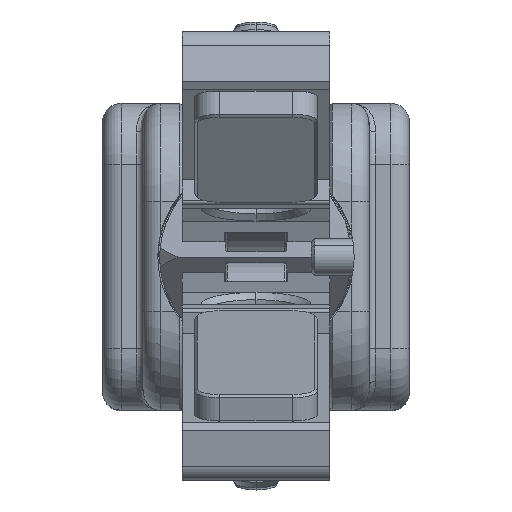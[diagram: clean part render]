
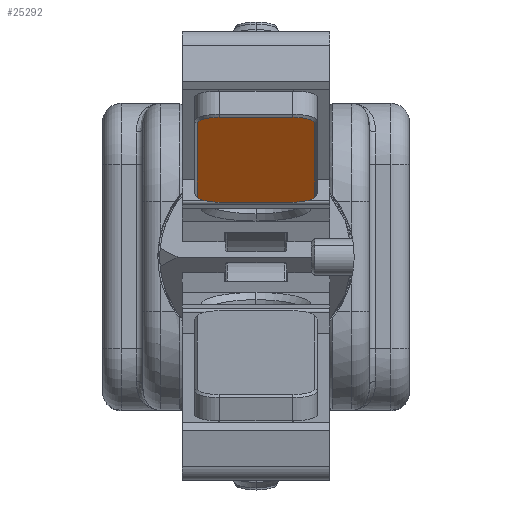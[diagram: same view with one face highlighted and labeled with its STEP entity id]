
A CAD part, top view. The second image highlights one B-rep face of the part: STEP entity #25292.
In plain terms, the highlighted planar face has unit normal (0, -0.963, 0.269).
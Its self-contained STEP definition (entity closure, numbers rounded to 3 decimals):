
#104 = AXIS2_PLACEMENT_3D ( 'NONE', #5534, #24479, #8289 ) ;
#435 = CARTESIAN_POINT ( 'NONE',  ( 2.858, 6.203, 128.681 ) ) ;
#598 = DIRECTION ( 'NONE',  ( 0., 0.268, 0.963 ) ) ;
#1003 = CARTESIAN_POINT ( 'NONE',  ( -4.942, 6.203, 128.681 ) ) ;
#1064 = CARTESIAN_POINT ( 'NONE',  ( -3.142, 5.72, 126.947 ) ) ;
#1135 = DIRECTION ( 'NONE',  ( 0., -0.963, 0.268 ) ) ;
#1240 = EDGE_CURVE ( 'NONE', #11209, #28828, #6441, .T. ) ;
#1839 = AXIS2_PLACEMENT_3D ( 'NONE', #33108, #16860, #598 ) ;
#2467 = CARTESIAN_POINT ( 'NONE',  ( 2.858, 5.72, 126.947 ) ) ;
#2791 = CARTESIAN_POINT ( 'NONE',  ( -3.142, 12.592, 151.607 ) ) ;
#3175 = DIRECTION ( 'NONE',  ( 0., 0.268, 0.963 ) ) ;
#3751 = LINE ( 'NONE', #26575, #24541 ) ;
#3977 = VERTEX_POINT ( 'NONE', #2791 ) ;
#4055 = EDGE_CURVE ( 'NONE', #19656, #22913, #18947, .T. ) ;
#4311 = ORIENTED_EDGE ( 'NONE', *, *, #14545, .T. ) ;
#5044 = CARTESIAN_POINT ( 'NONE',  ( -4.942, 6.203, 128.681 ) ) ;
#5110 = FACE_OUTER_BOUND ( 'NONE', #19575, .T. ) ;
#5534 = CARTESIAN_POINT ( 'NONE',  ( 2.858, 12.109, 149.873 ) ) ;
#6280 = CARTESIAN_POINT ( 'NONE',  ( -0.142, 5.72, 126.947 ) ) ;
#6441 = CIRCLE ( 'NONE', #104, 1.8 ) ;
#6628 = CARTESIAN_POINT ( 'NONE',  ( -4.942, 12.109, 149.873 ) ) ;
#6752 = AXIS2_PLACEMENT_3D ( 'NONE', #26189, #9967, #28951 ) ;
#7800 = DIRECTION ( 'NONE',  ( 0., -0.268, -0.963 ) ) ;
#7912 = EDGE_CURVE ( 'NONE', #3977, #11873, #27872, .T. ) ;
#7955 = ORIENTED_EDGE ( 'NONE', *, *, #1240, .T. ) ;
#8226 = ORIENTED_EDGE ( 'NONE', *, *, #23996, .T. ) ;
#8289 = DIRECTION ( 'NONE',  ( 0., 0.268, 0.963 ) ) ;
#9335 = EDGE_CURVE ( 'NONE', #17674, #28899, #33583, .T. ) ;
#9967 = DIRECTION ( 'NONE',  ( 0., -0.963, 0.268 ) ) ;
#10066 = CARTESIAN_POINT ( 'NONE',  ( -3.142, 12.592, 151.607 ) ) ;
#10337 = DIRECTION ( 'NONE',  ( 0., 0.268, 0.963 ) ) ;
#10398 = VECTOR ( 'NONE', #12816, 1000. ) ;
#10520 = AXIS2_PLACEMENT_3D ( 'NONE', #17397, #1135, #20126 ) ;
#11209 = VERTEX_POINT ( 'NONE', #19667 ) ;
#11769 = DIRECTION ( 'NONE',  ( 1., 0., 0. ) ) ;
#11873 = VERTEX_POINT ( 'NONE', #6628 ) ;
#12083 = AXIS2_PLACEMENT_3D ( 'NONE', #435, #19428, #3175 ) ;
#12816 = DIRECTION ( 'NONE',  ( -1., 0., 0. ) ) ;
#14285 = EDGE_CURVE ( 'NONE', #28899, #11209, #3751, .T. ) ;
#14545 = EDGE_CURVE ( 'NONE', #22913, #17674, #33822, .T. ) ;
#16540 = EDGE_CURVE ( 'NONE', #11873, #19656, #34793, .T. ) ;
#16860 = DIRECTION ( 'NONE',  ( 0., -0.963, 0.268 ) ) ;
#17397 = CARTESIAN_POINT ( 'NONE',  ( -3.142, 6.203, 128.681 ) ) ;
#17674 = VERTEX_POINT ( 'NONE', #2467 ) ;
#18947 = CIRCLE ( 'NONE', #10520, 1.8 ) ;
#19428 = DIRECTION ( 'NONE',  ( 0., -0.963, 0.268 ) ) ;
#19575 = EDGE_LOOP ( 'NONE', ( #33759, #7955, #8226, #35134, #27204, #28722, #4311, #29495 ) ) ;
#19656 = VERTEX_POINT ( 'NONE', #1003 ) ;
#19667 = CARTESIAN_POINT ( 'NONE',  ( 4.658, 12.109, 149.873 ) ) ;
#20126 = DIRECTION ( 'NONE',  ( 0., 0.268, 0.963 ) ) ;
#22171 = PLANE ( 'NONE',  #1839 ) ;
#22913 = VERTEX_POINT ( 'NONE', #1064 ) ;
#23996 = EDGE_CURVE ( 'NONE', #28828, #3977, #32060, .T. ) ;
#24479 = DIRECTION ( 'NONE',  ( 0., -0.963, 0.268 ) ) ;
#24541 = VECTOR ( 'NONE', #10337, 1000. ) ;
#25292 = ADVANCED_FACE ( 'NONE', ( #5110 ), #22171, .T. ) ;
#26189 = CARTESIAN_POINT ( 'NONE',  ( -3.142, 12.109, 149.873 ) ) ;
#26575 = CARTESIAN_POINT ( 'NONE',  ( 4.658, 9.156, 139.277 ) ) ;
#27204 = ORIENTED_EDGE ( 'NONE', *, *, #16540, .T. ) ;
#27872 = CIRCLE ( 'NONE', #6752, 1.8 ) ;
#28722 = ORIENTED_EDGE ( 'NONE', *, *, #4055, .T. ) ;
#28828 = VERTEX_POINT ( 'NONE', #34974 ) ;
#28899 = VERTEX_POINT ( 'NONE', #35205 ) ;
#28951 = DIRECTION ( 'NONE',  ( 0., 0.268, 0.963 ) ) ;
#29495 = ORIENTED_EDGE ( 'NONE', *, *, #9335, .T. ) ;
#32060 = LINE ( 'NONE', #10066, #10398 ) ;
#32980 = VECTOR ( 'NONE', #11769, 1000. ) ;
#33108 = CARTESIAN_POINT ( 'NONE',  ( -0.142, 9.156, 139.277 ) ) ;
#33583 = CIRCLE ( 'NONE', #12083, 1.8 ) ;
#33759 = ORIENTED_EDGE ( 'NONE', *, *, #14285, .T. ) ;
#33822 = LINE ( 'NONE', #6280, #32980 ) ;
#33965 = VECTOR ( 'NONE', #7800, 1000. ) ;
#34793 = LINE ( 'NONE', #5044, #33965 ) ;
#34974 = CARTESIAN_POINT ( 'NONE',  ( 2.858, 12.592, 151.607 ) ) ;
#35134 = ORIENTED_EDGE ( 'NONE', *, *, #7912, .T. ) ;
#35205 = CARTESIAN_POINT ( 'NONE',  ( 4.658, 6.203, 128.681 ) ) ;
